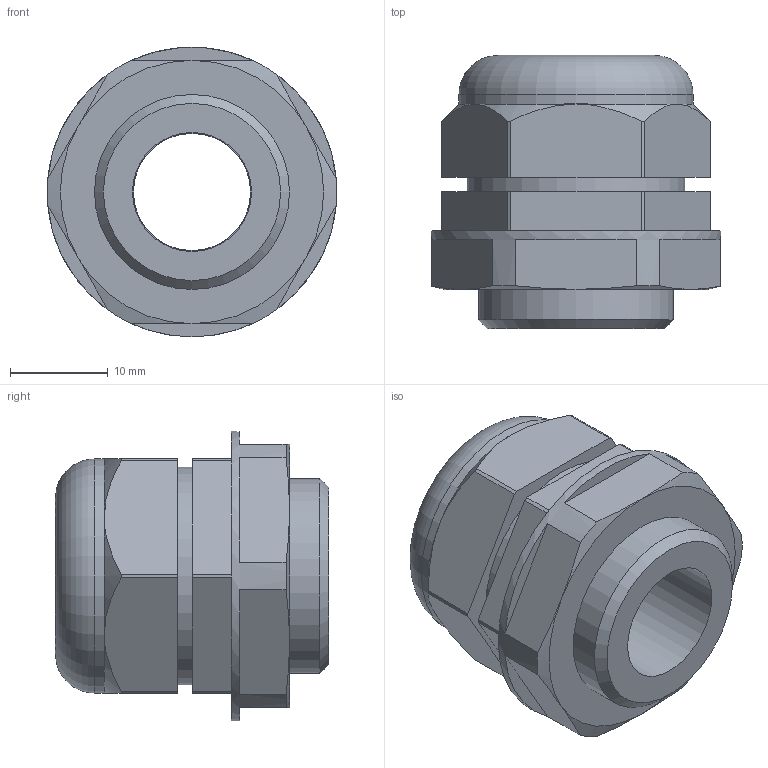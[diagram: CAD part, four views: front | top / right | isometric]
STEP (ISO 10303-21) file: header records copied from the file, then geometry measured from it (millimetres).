
FILE_DESCRIPTION( ( 'STEP AP214' ), '1' );
FILE_NAME( 'p:/temp/worker_141/temp/exporttempdir_1668_607_ZCnWz/format_0/2411.621(12).stp', '2020-06-09T13:43:12', ( 'License CC BY-ND 4.0' ), ( 'CADENAS' ), ' ', 'PARTsolutions', ' ' );
FILE_SCHEMA( ( 'AUTOMOTIVE_DESIGN { 1 0 10303 214 1 1 1 1 }' ) );
Length unit declared in the file: millimetre
Products named in the file (3): 2411.621(12); _2411.621(12)_01; _2411.621_02
Assembly tree (2 placements, depth 2):
  2411.621(12)
    _2411.621(12)_01
    _2411.621_02
Bounding box: 29.7 x 28 x 29.7 mm (x, y, z)
Volume: 10326.9 mm3; surface area: 5677.3 mm2
Topology: 2 solids, 2 shells, 70 faces, 166 edges, 105 vertices
Faces by surface type: plane 33, cylinder 20, cone 16, torus 1
Full cylindrical faces by diameter (mm): 12 x1, 12.2 x2, 18.376 x1, 20 x1, 22.3 x1, 24 x1, 29.7 x1
Entity records: 2644 total; most frequent: CARTESIAN_POINT 459, DIRECTION 340, ORIENTED_EDGE 302, EDGE_CURVE 151, AXIS2_PLACEMENT_3D 140, VERTEX_POINT 103, EDGE_LOOP 92, FACE_OUTER_BOUND 79
